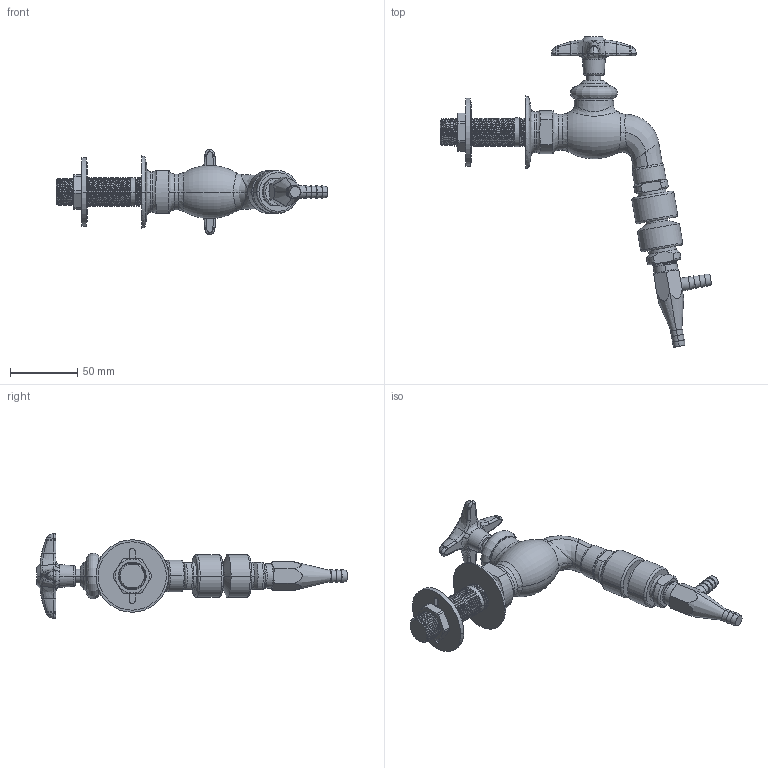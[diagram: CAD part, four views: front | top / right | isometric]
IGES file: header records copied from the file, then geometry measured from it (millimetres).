
Start section:  PTC IGES file: LWV4-B62.igs
Global section: file name: LWV4-B62.igs; native system: Creo Parametric by PTC Inc.; preprocessor: 2014500; author: usch_engrender; organization: Unknown; date: 20150915.131959; units: inch
Bounding box: 202.04 x 231.15 x 63.41 mm (x, y, z)
Volume: 199158.5 mm3; surface area: 45803.6 mm2
Topology: 1 solids, 4 shells, 568 faces, 1420 edges, 875 vertices
Faces by surface type: bspline 318, revolution 250
